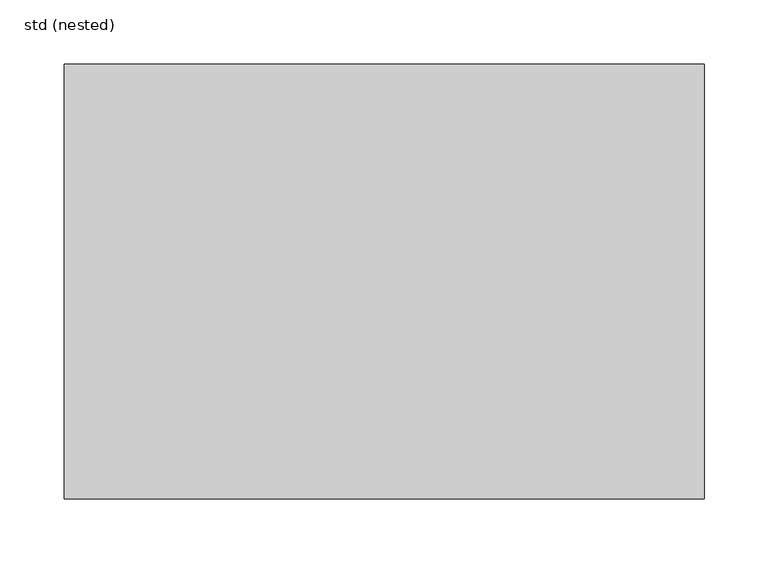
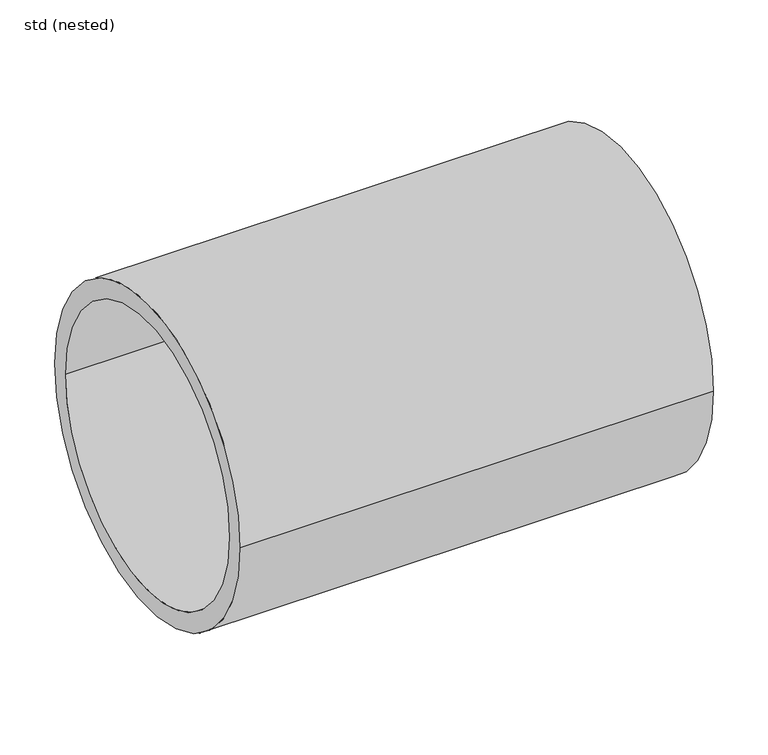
"""IFC4 building model written with IfcOpenShell, lengths in millimetres: pipe segment geometry, NLRS_52_PIF_WPB_Ultra Kyma buis SH_Dyka : std (nested)."""

from ifc_helpers import new_model, si_unit, point, frame, origin, origin_2d, place, context, project, spatial, circle_curve, trimmed, segment, composite_curve, outline, extrude, source, transform, mapped, element, save


def std_nested_02cb0f9b(model_context):
    return source(origin(), model_context, "Body", "SweptSolid", [
        extrude(outline(composite_curve([segment(trimmed(circle_curve(origin_2d(), 170.0), [point((-170.0, 0.0))], [point((170.0, 0.0))], False, "CARTESIAN"), True, "CONTINUOUS"), segment(trimmed(circle_curve(origin_2d(), 170.0), [point((170.0, 0.0))], [point((-170.0, 0.0))], False, "CARTESIAN"), True, "CONTINUOUS")], self_intersect=False), holes=[composite_curve([segment(trimmed(circle_curve(origin_2d(), 150.0), [point((150.0, 0.0))], [point((-150.0, 0.0))], True, "CARTESIAN"), True, "CONTINUOUS"), segment(trimmed(circle_curve(origin_2d(), 150.0), [point((-150.0, 0.0))], [point((150.0, 0.0))], True, "CARTESIAN"), True, "CONTINUOUS")], self_intersect=False)]), frame((0.0, 0.0, 0.0), z_axis=(1.0, 0.0, 0.0), x_axis=(0.0, 1.0, 0.0)), (0.0, 0.0, 1.0), 500.0),
    ])


if __name__ == "__main__":
    model = new_model("IFC4")
    model_context = context("Model", 3, world=origin())
    ifc_project = project(units=[si_unit("LENGTHUNIT", "METRE", prefix="MILLI")], contexts=[model_context])
    site = spatial("IfcSite", under=ifc_project)
    building = spatial("IfcBuilding", under=site)
    placement = place(None, origin())
    std_nested_shape = std_nested_02cb0f9b(model_context)
    element("IfcPipeSegment", 1, ObjectType="NLRS_52_PIF_WPB_Ultra Kyma buis SH_Dyka : std (nested)", at=placement, inside=building, context=model_context, shape_type="MappedRepresentation", body=[
        mapped(std_nested_shape, transform((0.0, 0.0, 0.0), x_axis=(1.0, 0.0, 0.0), y_axis=(0.0, 1.0, 0.0), z_axis=(0.0, 0.0, 1.0))),
    ])
    save(model, "model.ifc")
